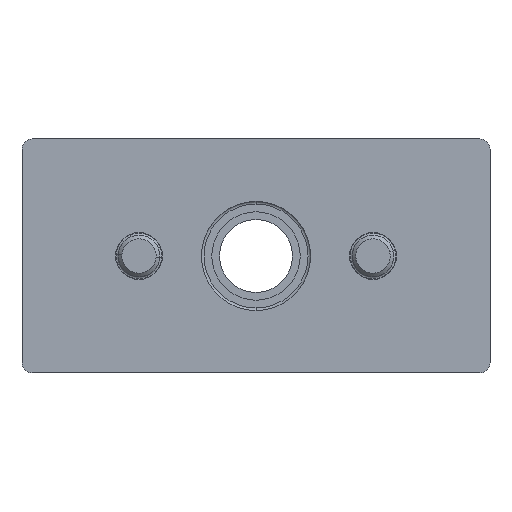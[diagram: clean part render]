
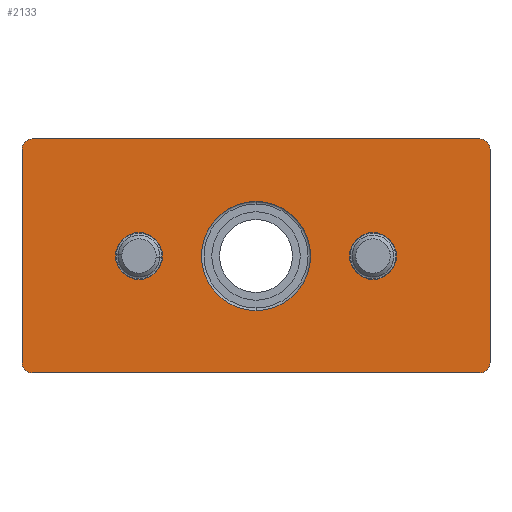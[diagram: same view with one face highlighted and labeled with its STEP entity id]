
A CAD part, front view. The second image highlights one B-rep face of the part: STEP entity #2133.
In plain terms, the highlighted planar face has unit normal (0, -1, 0).
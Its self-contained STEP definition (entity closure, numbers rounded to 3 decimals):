
#33 = DIRECTION ( 'NONE',  ( -1., 0., 0. ) ) ;
#34 = ORIENTED_EDGE ( 'NONE', *, *, #1728, .T. ) ;
#66 = DIRECTION ( 'NONE',  ( 0., -1., 0. ) ) ;
#77 = CARTESIAN_POINT ( 'NONE',  ( -46.744, -3.18, 18.384 ) ) ;
#105 = CIRCLE ( 'NONE', #2370, 4.5 ) ;
#112 = CIRCLE ( 'NONE', #432, 10.5 ) ;
#146 = ORIENTED_EDGE ( 'NONE', *, *, #1082, .F. ) ;
#155 = VECTOR ( 'NONE', #3306, 1000. ) ;
#208 = DIRECTION ( 'NONE',  ( 0., -1., 0. ) ) ;
#243 = DIRECTION ( 'NONE',  ( 0., -1., 0. ) ) ;
#249 = PLANE ( 'NONE',  #3764 ) ;
#279 = DIRECTION ( 'NONE',  ( 0., 0., 1. ) ) ;
#311 = EDGE_CURVE ( 'NONE', #1337, #2336, #1350, .T. ) ;
#314 = CARTESIAN_POINT ( 'NONE',  ( -44.744, -3.18, 18.384 ) ) ;
#363 = CARTESIAN_POINT ( 'NONE',  ( -44.744, -3.18, 20.384 ) ) ;
#392 = CARTESIAN_POINT ( 'NONE',  ( -24.244, -3.18, 2.384 ) ) ;
#401 = ORIENTED_EDGE ( 'NONE', *, *, #311, .F. ) ;
#416 = AXIS2_PLACEMENT_3D ( 'NONE', #865, #3938, #3034 ) ;
#432 = AXIS2_PLACEMENT_3D ( 'NONE', #3246, #2558, #756 ) ;
#443 = CARTESIAN_POINT ( 'NONE',  ( -44.744, -3.18, -24.616 ) ) ;
#481 = AXIS2_PLACEMENT_3D ( 'NONE', #500, #2289, #516 ) ;
#484 = DIRECTION ( 'NONE',  ( 0., 0., 1. ) ) ;
#491 = CARTESIAN_POINT ( 'NONE',  ( 20.756, -3.18, -2.116 ) ) ;
#498 = EDGE_LOOP ( 'NONE', ( #697, #1646 ) ) ;
#500 = CARTESIAN_POINT ( 'NONE',  ( -24.244, -3.18, -2.116 ) ) ;
#516 = DIRECTION ( 'NONE',  ( 0., 0., 1. ) ) ;
#540 = LINE ( 'NONE', #3361, #3888 ) ;
#543 = CARTESIAN_POINT ( 'NONE',  ( -1.744, -3.18, 8.384 ) ) ;
#563 = VERTEX_POINT ( 'NONE', #3782 ) ;
#622 = CIRCLE ( 'NONE', #1812, 4.5 ) ;
#697 = ORIENTED_EDGE ( 'NONE', *, *, #3465, .T. ) ;
#741 = DIRECTION ( 'NONE',  ( 0., -1., 0. ) ) ;
#756 = DIRECTION ( 'NONE',  ( 0., 0., -1. ) ) ;
#819 = DIRECTION ( 'NONE',  ( 0., 1., 0. ) ) ;
#865 = CARTESIAN_POINT ( 'NONE',  ( -1.744, -3.18, -2.116 ) ) ;
#903 = FACE_BOUND ( 'NONE', #498, .T. ) ;
#950 = CARTESIAN_POINT ( 'NONE',  ( 20.756, -3.18, -6.616 ) ) ;
#951 = CIRCLE ( 'NONE', #2691, 2. ) ;
#1001 = ORIENTED_EDGE ( 'NONE', *, *, #3792, .F. ) ;
#1032 = CARTESIAN_POINT ( 'NONE',  ( -46.744, -3.18, -22.616 ) ) ;
#1068 = DIRECTION ( 'NONE',  ( 0., 0., 1. ) ) ;
#1082 = EDGE_CURVE ( 'NONE', #2346, #2804, #2849, .T. ) ;
#1103 = CARTESIAN_POINT ( 'NONE',  ( 43.256, -3.18, -22.616 ) ) ;
#1184 = EDGE_CURVE ( 'NONE', #3663, #2336, #951, .T. ) ;
#1187 = EDGE_LOOP ( 'NONE', ( #2480, #3691 ) ) ;
#1200 = DIRECTION ( 'NONE',  ( 0., 0., 1. ) ) ;
#1202 = VECTOR ( 'NONE', #33, 1000. ) ;
#1337 = VERTEX_POINT ( 'NONE', #363 ) ;
#1350 = LINE ( 'NONE', #1396, #1943 ) ;
#1393 = CARTESIAN_POINT ( 'NONE',  ( -24.244, -3.18, -2.116 ) ) ;
#1396 = CARTESIAN_POINT ( 'NONE',  ( -46.744, -3.18, 20.384 ) ) ;
#1504 = ORIENTED_EDGE ( 'NONE', *, *, #3787, .T. ) ;
#1539 = AXIS2_PLACEMENT_3D ( 'NONE', #3435, #741, #3201 ) ;
#1562 = DIRECTION ( 'NONE',  ( 0., 0., 1. ) ) ;
#1581 = VERTEX_POINT ( 'NONE', #950 ) ;
#1646 = ORIENTED_EDGE ( 'NONE', *, *, #2035, .T. ) ;
#1669 = EDGE_LOOP ( 'NONE', ( #1695, #34 ) ) ;
#1695 = ORIENTED_EDGE ( 'NONE', *, *, #3081, .T. ) ;
#1728 = EDGE_CURVE ( 'NONE', #2150, #1949, #2867, .T. ) ;
#1812 = AXIS2_PLACEMENT_3D ( 'NONE', #2664, #819, #2066 ) ;
#1824 = FACE_BOUND ( 'NONE', #1187, .T. ) ;
#1887 = EDGE_CURVE ( 'NONE', #563, #2718, #2938, .T. ) ;
#1943 = VECTOR ( 'NONE', #3793, 1000. ) ;
#1949 = VERTEX_POINT ( 'NONE', #392 ) ;
#2010 = EDGE_CURVE ( 'NONE', #2346, #3429, #3124, .T. ) ;
#2035 = EDGE_CURVE ( 'NONE', #1581, #2449, #2745, .T. ) ;
#2056 = AXIS2_PLACEMENT_3D ( 'NONE', #314, #66, #2770 ) ;
#2063 = CARTESIAN_POINT ( 'NONE',  ( 41.256, -3.18, -24.616 ) ) ;
#2066 = DIRECTION ( 'NONE',  ( 0., 0., 1. ) ) ;
#2083 = FACE_BOUND ( 'NONE', #1669, .T. ) ;
#2133 = ADVANCED_FACE ( 'NONE', ( #2083, #903, #1824, #2141 ), #249, .F. ) ;
#2136 = CARTESIAN_POINT ( 'NONE',  ( 43.256, -3.18, 20.384 ) ) ;
#2141 = FACE_OUTER_BOUND ( 'NONE', #3379, .T. ) ;
#2150 = VERTEX_POINT ( 'NONE', #3309 ) ;
#2176 = LINE ( 'NONE', #2136, #155 ) ;
#2178 = EDGE_CURVE ( 'NONE', #1337, #2851, #3129, .T. ) ;
#2228 = DIRECTION ( 'NONE',  ( 0., 1., 0. ) ) ;
#2272 = ORIENTED_EDGE ( 'NONE', *, *, #2010, .T. ) ;
#2289 = DIRECTION ( 'NONE',  ( 0., 1., 0. ) ) ;
#2293 = ORIENTED_EDGE ( 'NONE', *, *, #2178, .T. ) ;
#2295 = EDGE_CURVE ( 'NONE', #2718, #563, #112, .T. ) ;
#2321 = CARTESIAN_POINT ( 'NONE',  ( 43.256, -3.18, 18.384 ) ) ;
#2332 = ORIENTED_EDGE ( 'NONE', *, *, #3832, .F. ) ;
#2336 = VERTEX_POINT ( 'NONE', #3212 ) ;
#2346 = VERTEX_POINT ( 'NONE', #2063 ) ;
#2352 = AXIS2_PLACEMENT_3D ( 'NONE', #3024, #243, #279 ) ;
#2370 = AXIS2_PLACEMENT_3D ( 'NONE', #1393, #2228, #2839 ) ;
#2449 = VERTEX_POINT ( 'NONE', #3140 ) ;
#2480 = ORIENTED_EDGE ( 'NONE', *, *, #1887, .F. ) ;
#2558 = DIRECTION ( 'NONE',  ( 0., -1., 0. ) ) ;
#2617 = CIRCLE ( 'NONE', #2352, 2. ) ;
#2664 = CARTESIAN_POINT ( 'NONE',  ( 20.756, -3.18, -2.116 ) ) ;
#2691 = AXIS2_PLACEMENT_3D ( 'NONE', #3572, #208, #484 ) ;
#2718 = VERTEX_POINT ( 'NONE', #543 ) ;
#2745 = CIRCLE ( 'NONE', #3517, 4.5 ) ;
#2770 = DIRECTION ( 'NONE',  ( 0., 0., 1. ) ) ;
#2804 = VERTEX_POINT ( 'NONE', #443 ) ;
#2839 = DIRECTION ( 'NONE',  ( 0., 0., 1. ) ) ;
#2849 = LINE ( 'NONE', #3771, #1202 ) ;
#2851 = VERTEX_POINT ( 'NONE', #77 ) ;
#2867 = CIRCLE ( 'NONE', #481, 4.5 ) ;
#2938 = CIRCLE ( 'NONE', #416, 10.5 ) ;
#2967 = ORIENTED_EDGE ( 'NONE', *, *, #1184, .T. ) ;
#2987 = DIRECTION ( 'NONE',  ( 0., 1., 0. ) ) ;
#3024 = CARTESIAN_POINT ( 'NONE',  ( -44.744, -3.18, -22.616 ) ) ;
#3030 = CARTESIAN_POINT ( 'NONE',  ( -1.744, -3.18, -2.116 ) ) ;
#3034 = DIRECTION ( 'NONE',  ( 0., 0., -1. ) ) ;
#3061 = VERTEX_POINT ( 'NONE', #1032 ) ;
#3081 = EDGE_CURVE ( 'NONE', #1949, #2150, #105, .T. ) ;
#3124 = CIRCLE ( 'NONE', #1539, 2. ) ;
#3129 = CIRCLE ( 'NONE', #2056, 2. ) ;
#3140 = CARTESIAN_POINT ( 'NONE',  ( 20.756, -3.18, 2.384 ) ) ;
#3201 = DIRECTION ( 'NONE',  ( 0., 0., 1. ) ) ;
#3212 = CARTESIAN_POINT ( 'NONE',  ( 41.256, -3.18, 20.384 ) ) ;
#3246 = CARTESIAN_POINT ( 'NONE',  ( -1.744, -3.18, -2.116 ) ) ;
#3250 = DIRECTION ( 'NONE',  ( 0., 1., 0. ) ) ;
#3306 = DIRECTION ( 'NONE',  ( 0., 0., -1. ) ) ;
#3309 = CARTESIAN_POINT ( 'NONE',  ( -24.244, -3.18, -6.616 ) ) ;
#3361 = CARTESIAN_POINT ( 'NONE',  ( -46.744, -3.18, -24.616 ) ) ;
#3379 = EDGE_LOOP ( 'NONE', ( #146, #2272, #1001, #2967, #401, #2293, #2332, #1504 ) ) ;
#3429 = VERTEX_POINT ( 'NONE', #1103 ) ;
#3435 = CARTESIAN_POINT ( 'NONE',  ( 41.256, -3.18, -22.616 ) ) ;
#3465 = EDGE_CURVE ( 'NONE', #2449, #1581, #622, .T. ) ;
#3517 = AXIS2_PLACEMENT_3D ( 'NONE', #491, #3250, #1068 ) ;
#3572 = CARTESIAN_POINT ( 'NONE',  ( 41.256, -3.18, 18.384 ) ) ;
#3663 = VERTEX_POINT ( 'NONE', #2321 ) ;
#3691 = ORIENTED_EDGE ( 'NONE', *, *, #2295, .F. ) ;
#3764 = AXIS2_PLACEMENT_3D ( 'NONE', #3030, #2987, #1200 ) ;
#3771 = CARTESIAN_POINT ( 'NONE',  ( 43.256, -3.18, -24.616 ) ) ;
#3782 = CARTESIAN_POINT ( 'NONE',  ( -1.744, -3.18, -12.616 ) ) ;
#3787 = EDGE_CURVE ( 'NONE', #3061, #2804, #2617, .T. ) ;
#3792 = EDGE_CURVE ( 'NONE', #3663, #3429, #2176, .T. ) ;
#3793 = DIRECTION ( 'NONE',  ( 1., 0., 0. ) ) ;
#3832 = EDGE_CURVE ( 'NONE', #3061, #2851, #540, .T. ) ;
#3888 = VECTOR ( 'NONE', #1562, 1000. ) ;
#3938 = DIRECTION ( 'NONE',  ( 0., -1., 0. ) ) ;
